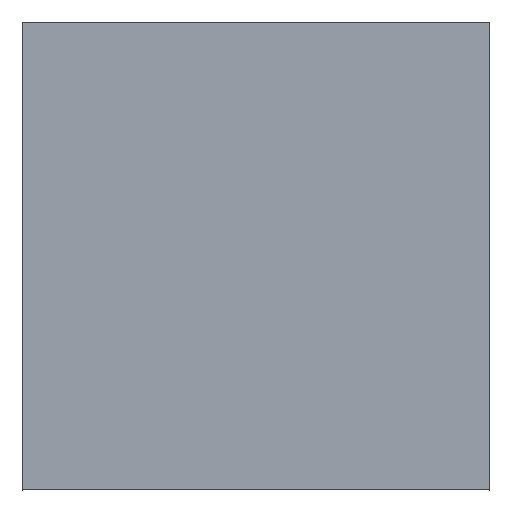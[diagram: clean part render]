
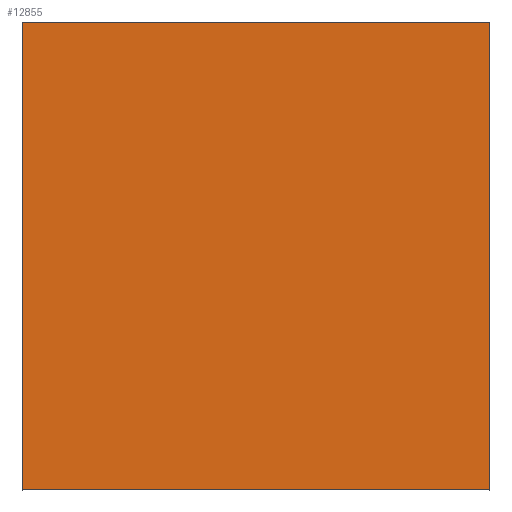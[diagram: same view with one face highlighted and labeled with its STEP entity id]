
A CAD part, top view. The second image highlights one B-rep face of the part: STEP entity #12855.
In plain terms, the highlighted planar face has unit normal (0, 0, 1).
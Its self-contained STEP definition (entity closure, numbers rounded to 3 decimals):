
#139 = CARTESIAN_POINT ( 'NONE',  ( -1159.879, -1500.666, -2203.818 ) ) ;
#604 = CARTESIAN_POINT ( 'NONE',  ( 5483.29, -1002.342, -2203.818 ) ) ;
#620 = VECTOR ( 'NONE', #12179, 1000. ) ;
#640 = CARTESIAN_POINT ( 'NONE',  ( -1165.879, -1500.666, -2203.818 ) ) ;
#1015 = EDGE_CURVE ( 'Defeatured_0_79+Defeatured_0_108+Defeatured_0_39+Defeatured_0_29', #8962, #4185, #1495, .T. ) ;
#1205 = LINE ( 'NONE', #7085, #3732 ) ;
#1307 = VECTOR ( 'NONE', #1436, 1000. ) ;
#1436 = DIRECTION ( 'NONE',  ( -1., 0., 0. ) ) ;
#1480 = CARTESIAN_POINT ( 'NONE',  ( 5483.29, -1500.666, -2203.818 ) ) ;
#1495 = LINE ( 'NONE', #2271, #6404 ) ;
#1740 = ORIENTED_EDGE ( 'NONE', *, *, #5209, .F. ) ;
#1900 = EDGE_LOOP ( 'NONE', ( #4139, #5314, #1740, #3787 ) ) ;
#2271 = CARTESIAN_POINT ( 'NONE',  ( 5483.29, -1494.666, -2203.818 ) ) ;
#3056 = VERTEX_POINT ( 'NONE', #640 ) ;
#3506 = LINE ( 'NONE', #6614, #620 ) ;
#3732 = VECTOR ( 'NONE', #5863, 1000. ) ;
#3760 = FACE_OUTER_BOUND ( 'NONE', #1900, .T. ) ;
#3787 = ORIENTED_EDGE ( 'NONE', *, *, #4040, .F. ) ;
#4040 = EDGE_CURVE ( 'Defeatured_0_29+Defeatured_0_108+Defeatured_0_79+Defeatured_0_22', #4185, #11629, #1205, .T. ) ;
#4139 = ORIENTED_EDGE ( 'NONE', *, *, #1015, .F. ) ;
#4185 = VERTEX_POINT ( 'NONE', #11418 ) ;
#5010 = CARTESIAN_POINT ( 'NONE',  ( -1165.879, -1494.666, -2203.818 ) ) ;
#5209 = EDGE_CURVE ( 'Defeatured_0_22+Defeatured_0_108+Defeatured_0_29+Defeatured_0_39', #11629, #3056, #7381, .T. ) ;
#5314 = ORIENTED_EDGE ( 'NONE', *, *, #11675, .F. ) ;
#5863 = DIRECTION ( 'NONE',  ( 0., -1., 0. ) ) ;
#6231 = AXIS2_PLACEMENT_3D ( 'NONE', #604, #10473, #12632 ) ;
#6404 = VECTOR ( 'NONE', #13983, 1000. ) ;
#6614 = CARTESIAN_POINT ( 'NONE',  ( -1165.879, -1002.342, -2203.818 ) ) ;
#7085 = CARTESIAN_POINT ( 'NONE',  ( -1159.879, -1002.342, -2203.818 ) ) ;
#7381 = LINE ( 'NONE', #1480, #1307 ) ;
#8292 = PLANE ( 'NONE',  #6231 ) ;
#8962 = VERTEX_POINT ( 'NONE', #5010 ) ;
#10473 = DIRECTION ( 'NONE',  ( 0., 0., 1. ) ) ;
#11418 = CARTESIAN_POINT ( 'NONE',  ( -1159.879, -1494.666, -2203.818 ) ) ;
#11629 = VERTEX_POINT ( 'NONE', #139 ) ;
#11675 = EDGE_CURVE ( 'Defeatured_0_39+Defeatured_0_108+Defeatured_0_22+Defeatured_0_79', #3056, #8962, #3506, .T. ) ;
#12179 = DIRECTION ( 'NONE',  ( 0., 1., 0. ) ) ;
#12632 = DIRECTION ( 'NONE',  ( 1., 0., 0. ) ) ;
#12855 = ADVANCED_FACE ( 'Defeatured_0_108', ( #3760 ), #8292, .T. ) ;
#13983 = DIRECTION ( 'NONE',  ( 1., 0., 0. ) ) ;
